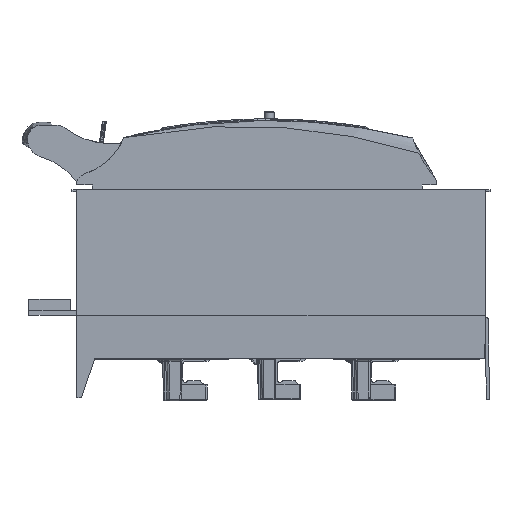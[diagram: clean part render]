
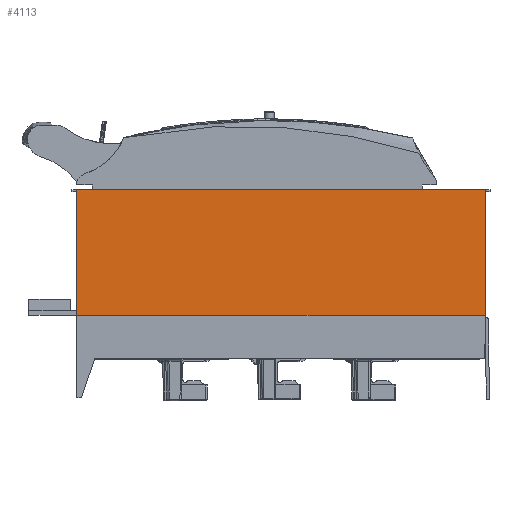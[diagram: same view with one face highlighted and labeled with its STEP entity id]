
A CAD part, front view. The second image highlights one B-rep face of the part: STEP entity #4113.
In plain terms, the highlighted planar face has unit normal (0, -1, 0).
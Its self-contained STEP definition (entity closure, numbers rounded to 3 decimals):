
#4113=ADVANCED_FACE('',(#7575),#6283,.F.);
#6283=PLANE('',#39453);
#7575=FACE_OUTER_BOUND('',#9687,.T.);
#9687=EDGE_LOOP('',(#12596,#12597,#12598,#12599));
#12596=ORIENTED_EDGE('',*,*,#27299,.T.);
#12597=ORIENTED_EDGE('',*,*,#27363,.F.);
#12598=ORIENTED_EDGE('',*,*,#27916,.F.);
#12599=ORIENTED_EDGE('',*,*,#27330,.T.);
#23571=VERTEX_POINT('',#53565);
#23572=VERTEX_POINT('',#53567);
#23596=VERTEX_POINT('',#53628);
#23626=VERTEX_POINT('',#53691);
#27299=EDGE_CURVE('',#23572,#23571,#33112,.T.);
#27330=EDGE_CURVE('',#23596,#23572,#33143,.T.);
#27363=EDGE_CURVE('',#23626,#23571,#33170,.T.);
#27916=EDGE_CURVE('',#23596,#23626,#33225,.T.);
#33112=LINE('',#53566,#36037);
#33143=LINE('',#53627,#36068);
#33170=LINE('',#53692,#36095);
#33225=LINE('',#55629,#36150);
#36037=VECTOR('',#42888,1.);
#36068=VECTOR('',#42931,1.);
#36095=VECTOR('',#42972,1.);
#36150=VECTOR('',#43801,1.);
#39453=AXIS2_PLACEMENT_3D('',#55646,#43815,#43816);
#42888=DIRECTION('',(1.,0.,0.));
#42931=DIRECTION('',(0.,0.,-1.));
#42972=DIRECTION('',(0.,0.,-1.));
#43801=DIRECTION('',(1.,0.,0.));
#43815=DIRECTION('',(0.,1.,0.));
#43816=DIRECTION('',(0.,0.,-1.));
#53565=CARTESIAN_POINT('',(129.812,-103.938,0.193));
#53566=CARTESIAN_POINT('',(129.812,-103.938,0.193));
#53567=CARTESIAN_POINT('',(-130.188,-103.938,0.193));
#53627=CARTESIAN_POINT('',(-130.188,-103.938,80.193));
#53628=CARTESIAN_POINT('',(-130.188,-103.938,80.193));
#53691=CARTESIAN_POINT('',(129.812,-103.938,80.193));
#53692=CARTESIAN_POINT('',(129.812,-103.938,80.193));
#55629=CARTESIAN_POINT('',(129.812,-103.938,80.193));
#55646=CARTESIAN_POINT('',(129.812,-103.938,80.193));
